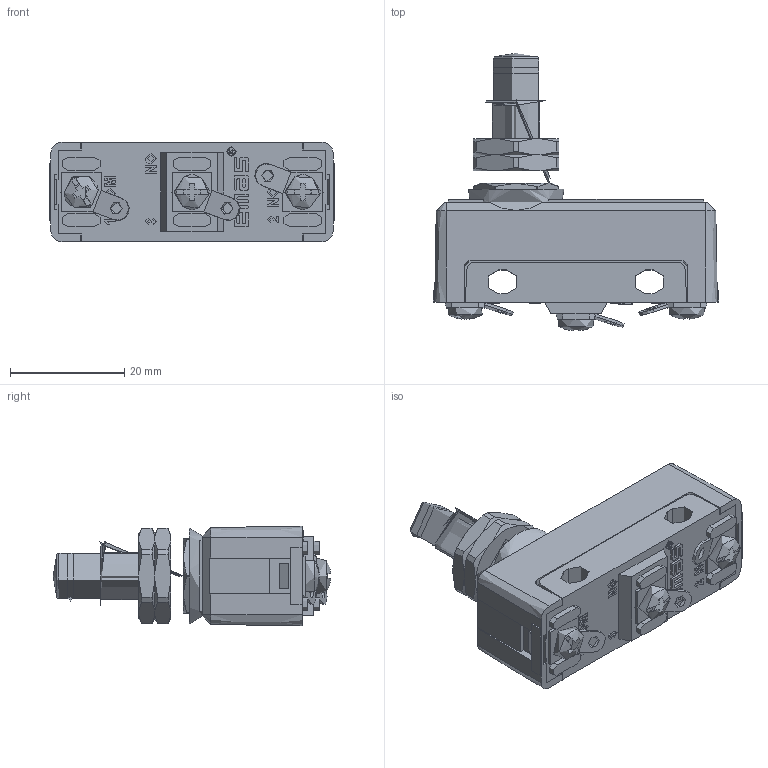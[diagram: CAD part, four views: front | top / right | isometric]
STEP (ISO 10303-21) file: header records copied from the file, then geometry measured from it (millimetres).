
FILE_DESCRIPTION((''),'2; 1');
FILE_NAME('','2026-03-27T16:31:02',(''),(''),'CST STEP Exporter V1.0','Unknown','');
FILE_SCHEMA(('CONFIG_CONTROL_DESIGN'));
Length unit declared in the file: metre
Assembly tree (14 placements, depth 2):
  (unnamed)
    (unnamed)
    (unnamed)
    (unnamed)
    (unnamed)
    (unnamed)
    (unnamed)
    (unnamed)
    (unnamed)
    (unnamed)
    (unnamed)
    (unnamed)
    (unnamed)
    (unnamed)
    (unnamed)
Bounding box: 50 x 48.6 x 17.5 mm (x, y, z)
Topology: 0 solids, 56 shells, 521 faces, 1540 edges, 1077 vertices
Faces by surface type: plane 312, cylinder 100, extrusion 56, cone 43, sphere 4, bspline 3, torus 3
Full cylindrical faces by diameter (mm): 1.4 x1, 1.8 x1, 2.2 x3, 8.1 x2, 8.3 x1, 12 x1, 16.8 x1
Entity records: 25526 total; most frequent: CARTESIAN_POINT 7584, ORIENTED_EDGE 2836, DIRECTION 2455, EDGE_CURVE 1580, VERTEX_POINT 1097, VECTOR 1031, LINE 977, AXIS2_PLACEMENT_3D 712
